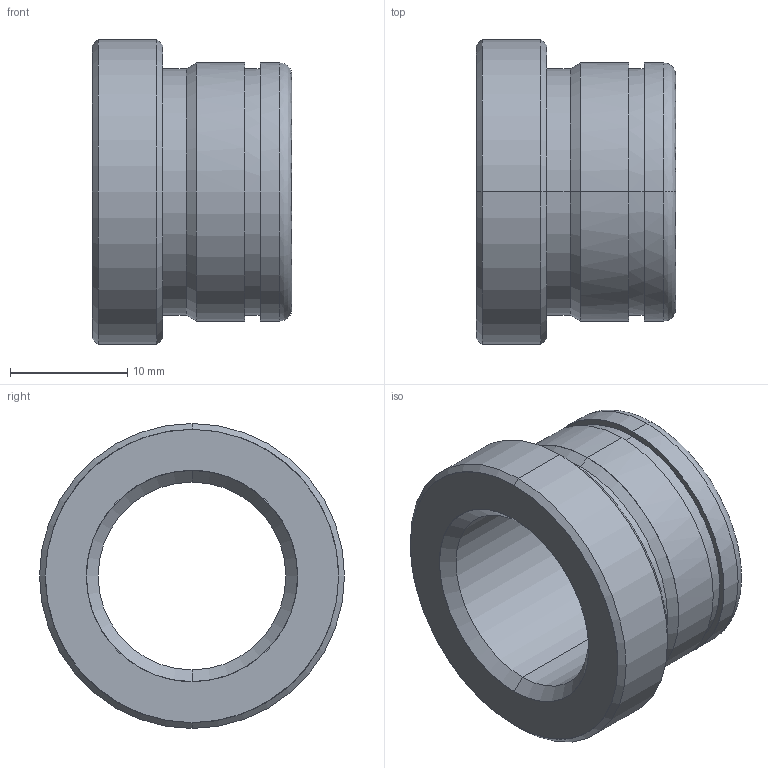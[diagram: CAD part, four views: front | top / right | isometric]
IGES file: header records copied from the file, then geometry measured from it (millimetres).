
Start section: START RECORD GO HERE.
Global section: file name: 553-16X17.igs; native system: DASSAULT SYSTEMES CATIA V5 R20 - www.3ds.com; preprocessor: CATIA Version 5 Release 20 ; author: Utente; organization: NB04-ASUS; date: 20210521.210021; units: millimetre
Bounding box: 17 x 26 x 26 mm (x, y, z)
Surface area: 2725.1 mm2 (no closed solid volume)
Topology: 0 solids, 0 shells, 29 faces, 184 edges, 184 vertices
Faces by surface type: revolution 24, plane 5
